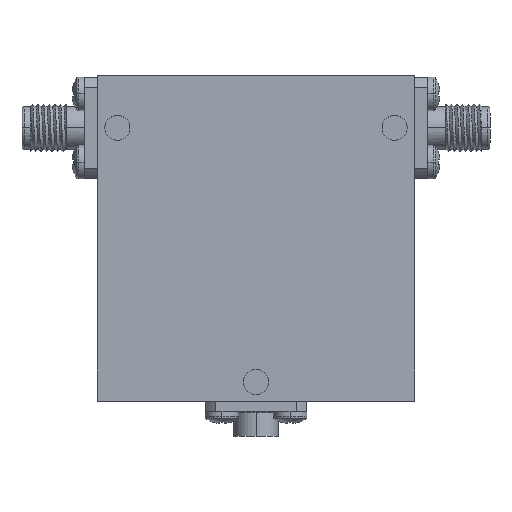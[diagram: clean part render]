
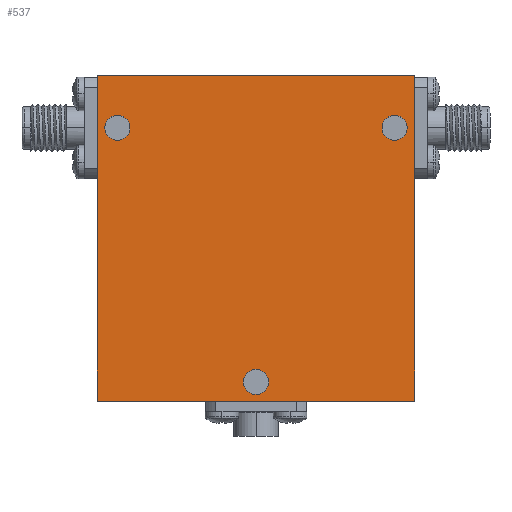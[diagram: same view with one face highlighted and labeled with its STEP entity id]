
A CAD part, top view. The second image highlights one B-rep face of the part: STEP entity #537.
In plain terms, the highlighted planar face has unit normal (0, 0, 1) as drawn and (0, 0, -1) by its records, which use the part's own axes.
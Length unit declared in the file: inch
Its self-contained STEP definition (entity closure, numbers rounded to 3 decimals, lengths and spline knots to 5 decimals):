
#38 = CARTESIAN_POINT ( 'NONE',  ( -0.79, -0.81, -0.365 ) ) ;
#72 = CARTESIAN_POINT ( 'NONE',  ( 0., -0.715, -0.365 ) ) ;
#76 = AXIS2_PLACEMENT_3D ( 'NONE', #72, #4162, #4146 ) ;
#122 = ORIENTED_EDGE ( 'NONE', *, *, #1000, .T. ) ;
#124 = LINE ( 'NONE', #949, #3990 ) ;
#134 = EDGE_CURVE ( 'NONE', #4509, #4135, #4237, .T. ) ;
#160 = DIRECTION ( 'NONE',  ( 1., 0., 0. ) ) ;
#278 = CARTESIAN_POINT ( 'NONE',  ( -0.69, 0.55, -0.365 ) ) ;
#304 = ORIENTED_EDGE ( 'NONE', *, *, #4438, .F. ) ;
#433 = CARTESIAN_POINT ( 'NONE',  ( 0.69, 0.55, -0.365 ) ) ;
#537 = ADVANCED_FACE ( 'NONE', ( #2636, #942, #1050, #1396 ), #3505, .F. ) ;
#562 = EDGE_CURVE ( 'NONE', #4135, #4509, #2273, .T. ) ;
#573 = CARTESIAN_POINT ( 'NONE',  ( 0.69, 0.55, -0.365 ) ) ;
#575 = EDGE_LOOP ( 'NONE', ( #1452, #1442 ) ) ;
#589 = DIRECTION ( 'NONE',  ( 1., 0., 0. ) ) ;
#647 = AXIS2_PLACEMENT_3D ( 'NONE', #2389, #4314, #160 ) ;
#706 = CARTESIAN_POINT ( 'NONE',  ( 0.79, 0.81, -0.365 ) ) ;
#731 = EDGE_LOOP ( 'NONE', ( #122, #2160 ) ) ;
#779 = ORIENTED_EDGE ( 'NONE', *, *, #3963, .F. ) ;
#781 = CARTESIAN_POINT ( 'NONE',  ( -0.7525, 0.55, -0.365 ) ) ;
#895 = VECTOR ( 'NONE', #2657, 39.37008 ) ;
#942 = FACE_BOUND ( 'NONE', #4805, .T. ) ;
#949 = CARTESIAN_POINT ( 'NONE',  ( -0.79, -0.81, -0.365 ) ) ;
#967 = CARTESIAN_POINT ( 'NONE',  ( 0.7525, 0.55, -0.365 ) ) ;
#1000 = EDGE_CURVE ( 'NONE', #1287, #1857, #4361, .T. ) ;
#1050 = FACE_BOUND ( 'NONE', #731, .T. ) ;
#1134 = VERTEX_POINT ( 'NONE', #706 ) ;
#1216 = CARTESIAN_POINT ( 'NONE',  ( -0.69, 0.55, -0.365 ) ) ;
#1287 = VERTEX_POINT ( 'NONE', #3900 ) ;
#1338 = DIRECTION ( 'NONE',  ( 0., 0., 1. ) ) ;
#1396 = FACE_OUTER_BOUND ( 'NONE', #4413, .T. ) ;
#1427 = EDGE_CURVE ( 'NONE', #1749, #3568, #2399, .T. ) ;
#1442 = ORIENTED_EDGE ( 'NONE', *, *, #1427, .T. ) ;
#1452 = ORIENTED_EDGE ( 'NONE', *, *, #3907, .T. ) ;
#1541 = AXIS2_PLACEMENT_3D ( 'NONE', #2736, #3872, #3905 ) ;
#1749 = VERTEX_POINT ( 'NONE', #2224 ) ;
#1781 = VERTEX_POINT ( 'NONE', #1812 ) ;
#1789 = LINE ( 'NONE', #4155, #2323 ) ;
#1812 = CARTESIAN_POINT ( 'NONE',  ( 0.79, -0.81, -0.365 ) ) ;
#1819 = AXIS2_PLACEMENT_3D ( 'NONE', #1216, #2713, #2691 ) ;
#1833 = DIRECTION ( 'NONE',  ( 0., 1., 0. ) ) ;
#1852 = CARTESIAN_POINT ( 'NONE',  ( -0.79, 0.81, -0.365 ) ) ;
#1857 = VERTEX_POINT ( 'NONE', #781 ) ;
#1864 = LINE ( 'NONE', #2267, #895 ) ;
#1887 = DIRECTION ( 'NONE',  ( 1., 0., 0. ) ) ;
#2048 = DIRECTION ( 'NONE',  ( 1., 0., 0. ) ) ;
#2149 = DIRECTION ( 'NONE',  ( 0., 0., 1. ) ) ;
#2160 = ORIENTED_EDGE ( 'NONE', *, *, #4354, .T. ) ;
#2178 = AXIS2_PLACEMENT_3D ( 'NONE', #573, #1338, #589 ) ;
#2186 = AXIS2_PLACEMENT_3D ( 'NONE', #278, #2149, #4006 ) ;
#2224 = CARTESIAN_POINT ( 'NONE',  ( 0.6275, 0.55, -0.365 ) ) ;
#2267 = CARTESIAN_POINT ( 'NONE',  ( -0.79, 0.81, -0.365 ) ) ;
#2273 = CIRCLE ( 'NONE', #647, 0.0625 ) ;
#2275 = EDGE_CURVE ( 'NONE', #4514, #1781, #124, .T. ) ;
#2301 = DIRECTION ( 'NONE',  ( 0., 0., 1. ) ) ;
#2323 = VECTOR ( 'NONE', #1833, 39.37008 ) ;
#2389 = CARTESIAN_POINT ( 'NONE',  ( 0., -0.715, -0.365 ) ) ;
#2399 = CIRCLE ( 'NONE', #2178, 0.0625 ) ;
#2426 = ORIENTED_EDGE ( 'NONE', *, *, #134, .T. ) ;
#2447 = AXIS2_PLACEMENT_3D ( 'NONE', #433, #2301, #1887 ) ;
#2474 = EDGE_CURVE ( 'NONE', #1781, #1134, #1789, .T. ) ;
#2488 = CARTESIAN_POINT ( 'NONE',  ( -0.79, 0.81, -0.365 ) ) ;
#2532 = ORIENTED_EDGE ( 'NONE', *, *, #562, .T. ) ;
#2636 = FACE_BOUND ( 'NONE', #575, .T. ) ;
#2657 = DIRECTION ( 'NONE',  ( -1., 0., 0. ) ) ;
#2691 = DIRECTION ( 'NONE',  ( 1., 0., 0. ) ) ;
#2713 = DIRECTION ( 'NONE',  ( 0., 0., 1. ) ) ;
#2732 = CARTESIAN_POINT ( 'NONE',  ( -0.0625, -0.715, -0.365 ) ) ;
#2736 = CARTESIAN_POINT ( 'NONE',  ( 0., 0., -0.365 ) ) ;
#2804 = CIRCLE ( 'NONE', #2186, 0.0625 ) ;
#2922 = DIRECTION ( 'NONE',  ( 0., -1., 0. ) ) ;
#3304 = ORIENTED_EDGE ( 'NONE', *, *, #2275, .F. ) ;
#3321 = VECTOR ( 'NONE', #2922, 39.37008 ) ;
#3493 = CIRCLE ( 'NONE', #2447, 0.0625 ) ;
#3505 = PLANE ( 'NONE',  #1541 ) ;
#3568 = VERTEX_POINT ( 'NONE', #967 ) ;
#3624 = CARTESIAN_POINT ( 'NONE',  ( 0.0625, -0.715, -0.365 ) ) ;
#3741 = ORIENTED_EDGE ( 'NONE', *, *, #2474, .F. ) ;
#3872 = DIRECTION ( 'NONE',  ( 0., 0., 1. ) ) ;
#3900 = CARTESIAN_POINT ( 'NONE',  ( -0.6275, 0.55, -0.365 ) ) ;
#3905 = DIRECTION ( 'NONE',  ( 1., 0., 0. ) ) ;
#3907 = EDGE_CURVE ( 'NONE', #3568, #1749, #3493, .T. ) ;
#3925 = VERTEX_POINT ( 'NONE', #1852 ) ;
#3963 = EDGE_CURVE ( 'NONE', #1134, #3925, #1864, .T. ) ;
#3990 = VECTOR ( 'NONE', #2048, 39.37008 ) ;
#4006 = DIRECTION ( 'NONE',  ( 1., 0., 0. ) ) ;
#4022 = LINE ( 'NONE', #2488, #3321 ) ;
#4135 = VERTEX_POINT ( 'NONE', #2732 ) ;
#4146 = DIRECTION ( 'NONE',  ( 1., 0., 0. ) ) ;
#4155 = CARTESIAN_POINT ( 'NONE',  ( 0.79, 0.81, -0.365 ) ) ;
#4162 = DIRECTION ( 'NONE',  ( 0., 0., 1. ) ) ;
#4237 = CIRCLE ( 'NONE', #76, 0.0625 ) ;
#4314 = DIRECTION ( 'NONE',  ( 0., 0., 1. ) ) ;
#4354 = EDGE_CURVE ( 'NONE', #1857, #1287, #2804, .T. ) ;
#4361 = CIRCLE ( 'NONE', #1819, 0.0625 ) ;
#4413 = EDGE_LOOP ( 'NONE', ( #3741, #3304, #304, #779 ) ) ;
#4438 = EDGE_CURVE ( 'NONE', #3925, #4514, #4022, .T. ) ;
#4509 = VERTEX_POINT ( 'NONE', #3624 ) ;
#4514 = VERTEX_POINT ( 'NONE', #38 ) ;
#4805 = EDGE_LOOP ( 'NONE', ( #2426, #2532 ) ) ;
